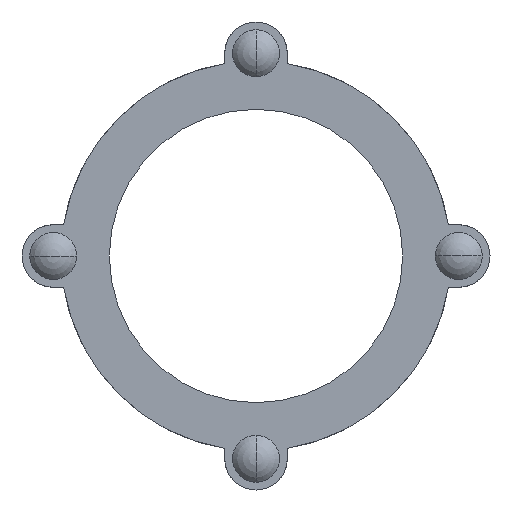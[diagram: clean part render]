
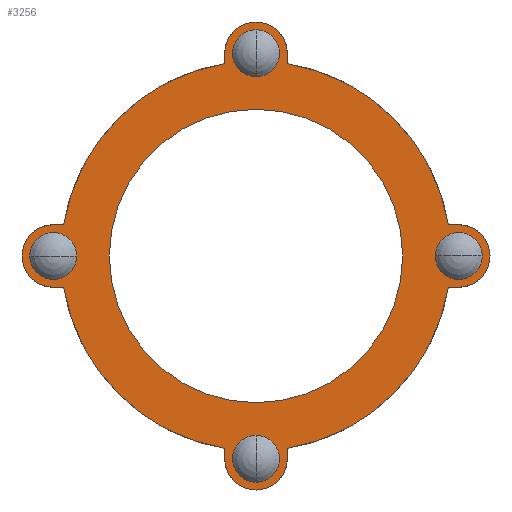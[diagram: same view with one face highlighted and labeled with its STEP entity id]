
A CAD part, left-side view. The second image highlights one B-rep face of the part: STEP entity #3256.
In plain terms, the highlighted planar face has unit normal (-1, 0, 0).
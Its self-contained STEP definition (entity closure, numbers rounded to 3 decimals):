
#2=CARTESIAN_POINT('',(-76.5,0.,-110.25));
#3=DIRECTION('',(1.,0.,0.));
#4=DIRECTION('',(0.,0.,-1.));
#5=AXIS2_PLACEMENT_3D('',#2,#3,#4);
#7=CARTESIAN_POINT('',(-76.5,0.,-110.25));
#8=DIRECTION('',(1.,0.,0.));
#9=DIRECTION('',(0.,0.,1.));
#10=AXIS2_PLACEMENT_3D('',#7,#8,#9);
#12=CARTESIAN_POINT('',(-76.5,0.,110.25));
#13=DIRECTION('',(1.,0.,0.));
#14=DIRECTION('',(0.,0.,1.));
#15=AXIS2_PLACEMENT_3D('',#12,#13,#14);
#17=CARTESIAN_POINT('',(-76.5,0.,110.25));
#18=DIRECTION('',(1.,0.,0.));
#19=DIRECTION('',(0.,0.,-1.));
#20=AXIS2_PLACEMENT_3D('',#17,#18,#19);
#22=CARTESIAN_POINT('',(-76.5,110.25,0.));
#23=DIRECTION('',(1.,0.,0.));
#24=DIRECTION('',(0.,1.,0.));
#25=AXIS2_PLACEMENT_3D('',#22,#23,#24);
#27=CARTESIAN_POINT('',(-76.5,110.25,0.));
#28=DIRECTION('',(1.,0.,0.));
#29=DIRECTION('',(0.,-1.,0.));
#30=AXIS2_PLACEMENT_3D('',#27,#28,#29);
#32=DIRECTION('',(0.,0.,1.));
#33=VECTOR('',#32,5.622);
#34=CARTESIAN_POINT('',(-76.5,-17.,-110.25));
#35=LINE('',#34,#33);
#36=CARTESIAN_POINT('',(-76.5,0.,-110.25));
#37=DIRECTION('',(-1.,0.,0.));
#38=DIRECTION('',(0.,1.,0.));
#39=AXIS2_PLACEMENT_3D('',#36,#37,#38);
#41=DIRECTION('',(0.,0.,-1.));
#42=VECTOR('',#41,5.622);
#43=CARTESIAN_POINT('',(-76.5,17.,-104.628));
#44=LINE('',#43,#42);
#45=DIRECTION('',(0.,-1.,0.));
#46=VECTOR('',#45,5.622);
#47=CARTESIAN_POINT('',(-76.5,110.25,-17.));
#48=LINE('',#47,#46);
#49=CARTESIAN_POINT('',(-76.5,110.25,0.));
#50=DIRECTION('',(-1.,0.,0.));
#51=DIRECTION('',(0.,0.,1.));
#52=AXIS2_PLACEMENT_3D('',#49,#50,#51);
#54=DIRECTION('',(0.,1.,0.));
#55=VECTOR('',#54,5.622);
#56=CARTESIAN_POINT('',(-76.5,104.628,17.));
#57=LINE('',#56,#55);
#58=DIRECTION('',(0.,0.,-1.));
#59=VECTOR('',#58,5.622);
#60=CARTESIAN_POINT('',(-76.5,17.,110.25));
#61=LINE('',#60,#59);
#62=CARTESIAN_POINT('',(-76.5,0.,110.25));
#63=DIRECTION('',(-1.,0.,0.));
#64=DIRECTION('',(0.,-1.,0.));
#65=AXIS2_PLACEMENT_3D('',#62,#63,#64);
#67=DIRECTION('',(0.,0.,1.));
#68=VECTOR('',#67,5.622);
#69=CARTESIAN_POINT('',(-76.5,-17.,104.628));
#70=LINE('',#69,#68);
#71=DIRECTION('',(0.,1.,0.));
#72=VECTOR('',#71,5.622);
#73=CARTESIAN_POINT('',(-76.5,-110.25,17.));
#74=LINE('',#73,#72);
#75=CARTESIAN_POINT('',(-76.5,-110.25,0.));
#76=DIRECTION('',(-1.,0.,0.));
#77=DIRECTION('',(0.,0.,-1.));
#78=AXIS2_PLACEMENT_3D('',#75,#76,#77);
#80=DIRECTION('',(0.,-1.,0.));
#81=VECTOR('',#80,5.622);
#82=CARTESIAN_POINT('',(-76.5,-104.628,-17.));
#83=LINE('',#82,#81);
#84=CARTESIAN_POINT('',(-76.5,-110.25,0.));
#85=DIRECTION('',(1.,0.,0.));
#86=DIRECTION('',(0.,-1.,0.));
#87=AXIS2_PLACEMENT_3D('',#84,#85,#86);
#89=CARTESIAN_POINT('',(-76.5,-110.25,0.));
#90=DIRECTION('',(1.,0.,0.));
#91=DIRECTION('',(0.,1.,0.));
#92=AXIS2_PLACEMENT_3D('',#89,#90,#91);
#191=CARTESIAN_POINT('',(-76.5,0.,0.));
#192=DIRECTION('',(-1.,0.,0.));
#193=DIRECTION('',(0.,-0.16,-0.987));
#194=AXIS2_PLACEMENT_3D('',#191,#192,#193);
#236=CARTESIAN_POINT('',(-76.5,0.,0.));
#237=DIRECTION('',(-1.,0.,0.));
#238=DIRECTION('',(0.,0.987,-0.16));
#239=AXIS2_PLACEMENT_3D('',#236,#237,#238);
#263=CARTESIAN_POINT('',(-76.5,0.,0.));
#264=DIRECTION('',(-1.,0.,0.));
#265=DIRECTION('',(0.,-0.987,0.16));
#266=AXIS2_PLACEMENT_3D('',#263,#264,#265);
#299=CARTESIAN_POINT('',(-76.5,0.,0.));
#300=DIRECTION('',(-1.,0.,0.));
#301=DIRECTION('',(0.,0.16,0.987));
#302=AXIS2_PLACEMENT_3D('',#299,#300,#301);
#2264=CARTESIAN_POINT('',(-76.5,0.,0.));
#2265=DIRECTION('',(-1.,0.,0.));
#2266=DIRECTION('',(0.,1.,0.));
#2267=AXIS2_PLACEMENT_3D('',#2264,#2265,#2266);
#2269=CARTESIAN_POINT('',(-76.5,0.,0.));
#2270=DIRECTION('',(1.,0.,0.));
#2271=DIRECTION('',(0.,1.,0.));
#2272=AXIS2_PLACEMENT_3D('',#2269,#2270,#2271);
#2532=CARTESIAN_POINT('',(-76.5,79.75,0.));
#2534=VERTEX_POINT('',#2532);
#2544=CARTESIAN_POINT('',(-76.5,-79.75,0.));
#2546=VERTEX_POINT('',#2544);
#2560=CARTESIAN_POINT('',(-76.5,110.25,17.));
#2561=CARTESIAN_POINT('',(-76.5,110.25,-17.));
#2562=VERTEX_POINT('',#2560);
#2563=VERTEX_POINT('',#2561);
#2565=CARTESIAN_POINT('',(-76.5,104.628,17.));
#2567=VERTEX_POINT('',#2565);
#2568=CARTESIAN_POINT('',(-76.5,104.628,-17.));
#2570=VERTEX_POINT('',#2568);
#2660=CARTESIAN_POINT('',(-76.5,123.,0.));
#2661=CARTESIAN_POINT('',(-76.5,97.5,0.));
#2662=VERTEX_POINT('',#2660);
#2663=VERTEX_POINT('',#2661);
#2724=CARTESIAN_POINT('',(-76.5,-17.,110.25));
#2725=CARTESIAN_POINT('',(-76.5,17.,110.25));
#2726=VERTEX_POINT('',#2724);
#2727=VERTEX_POINT('',#2725);
#2728=CARTESIAN_POINT('',(-76.5,17.,104.628));
#2729=VERTEX_POINT('',#2728);
#2730=CARTESIAN_POINT('',(-76.5,-17.,104.628));
#2731=VERTEX_POINT('',#2730);
#2764=CARTESIAN_POINT('',(-76.5,-110.25,-17.));
#2765=CARTESIAN_POINT('',(-76.5,-110.25,17.));
#2766=VERTEX_POINT('',#2764);
#2767=VERTEX_POINT('',#2765);
#2768=CARTESIAN_POINT('',(-76.5,-104.628,17.));
#2769=VERTEX_POINT('',#2768);
#2770=CARTESIAN_POINT('',(-76.5,-104.628,-17.));
#2771=VERTEX_POINT('',#2770);
#2804=CARTESIAN_POINT('',(-76.5,17.,-110.25));
#2805=CARTESIAN_POINT('',(-76.5,-17.,-110.25));
#2806=VERTEX_POINT('',#2804);
#2807=VERTEX_POINT('',#2805);
#2808=CARTESIAN_POINT('',(-76.5,-17.,-104.628));
#2809=VERTEX_POINT('',#2808);
#2810=CARTESIAN_POINT('',(-76.5,17.,-104.628));
#2811=VERTEX_POINT('',#2810);
#3124=CARTESIAN_POINT('',(-76.5,0.,123.));
#3125=VERTEX_POINT('',#3124);
#3126=CARTESIAN_POINT('',(-76.5,0.,97.5));
#3127=VERTEX_POINT('',#3126);
#3140=CARTESIAN_POINT('',(-76.5,-123.,0.));
#3141=VERTEX_POINT('',#3140);
#3142=CARTESIAN_POINT('',(-76.5,-97.5,0.));
#3143=VERTEX_POINT('',#3142);
#3156=CARTESIAN_POINT('',(-76.5,0.,-123.));
#3157=VERTEX_POINT('',#3156);
#3158=CARTESIAN_POINT('',(-76.5,0.,-97.5));
#3159=VERTEX_POINT('',#3158);
#3188=CARTESIAN_POINT('',(-76.5,0.,0.));
#3189=DIRECTION('',(1.,0.,0.));
#3190=DIRECTION('',(0.,-1.,0.));
#3191=AXIS2_PLACEMENT_3D('',#3188,#3189,#3190);
#3192=PLANE('',#3191);
#3194=ORIENTED_EDGE('',*,*,#3193,.F.);
#3196=ORIENTED_EDGE('',*,*,#3195,.F.);
#3198=ORIENTED_EDGE('',*,*,#3197,.F.);
#3200=ORIENTED_EDGE('',*,*,#3199,.F.);
#3202=ORIENTED_EDGE('',*,*,#3201,.F.);
#3204=ORIENTED_EDGE('',*,*,#3203,.F.);
#3206=ORIENTED_EDGE('',*,*,#3205,.F.);
#3208=ORIENTED_EDGE('',*,*,#3207,.F.);
#3210=ORIENTED_EDGE('',*,*,#3209,.F.);
#3212=ORIENTED_EDGE('',*,*,#3211,.F.);
#3214=ORIENTED_EDGE('',*,*,#3213,.F.);
#3216=ORIENTED_EDGE('',*,*,#3215,.F.);
#3218=ORIENTED_EDGE('',*,*,#3217,.F.);
#3220=ORIENTED_EDGE('',*,*,#3219,.F.);
#3222=ORIENTED_EDGE('',*,*,#3221,.F.);
#3224=ORIENTED_EDGE('',*,*,#3223,.F.);
#3225=EDGE_LOOP('',(#3194,#3196,#3198,#3200,#3202,#3204,#3206,#3208,#3210,#3212,
#3214,#3216,#3218,#3220,#3222,#3224));
#3226=FACE_OUTER_BOUND('',#3225,.F.);
#3228=ORIENTED_EDGE('',*,*,#3227,.F.);
#3230=ORIENTED_EDGE('',*,*,#3229,.F.);
#3231=EDGE_LOOP('',(#3228,#3230));
#3232=FACE_BOUND('',#3231,.F.);
#3234=ORIENTED_EDGE('',*,*,#3233,.F.);
#3236=ORIENTED_EDGE('',*,*,#3235,.F.);
#3237=EDGE_LOOP('',(#3234,#3236));
#3238=FACE_BOUND('',#3237,.F.);
#3240=ORIENTED_EDGE('',*,*,#3239,.F.);
#3242=ORIENTED_EDGE('',*,*,#3241,.F.);
#3243=EDGE_LOOP('',(#3240,#3242));
#3244=FACE_BOUND('',#3243,.F.);
#3246=ORIENTED_EDGE('',*,*,#3245,.F.);
#3248=ORIENTED_EDGE('',*,*,#3247,.T.);
#3249=EDGE_LOOP('',(#3246,#3248));
#3250=FACE_BOUND('',#3249,.F.);
#3251=ORIENTED_EDGE('',*,*,#3177,.F.);
#3253=ORIENTED_EDGE('',*,*,#3252,.F.);
#3254=EDGE_LOOP('',(#3251,#3253));
#3255=FACE_BOUND('',#3254,.F.);
#3256=ADVANCED_FACE('',(#3226,#3232,#3238,#3244,#3250,#3255),#3192,.F.);
#6=CIRCLE('',#5,12.75);
#11=CIRCLE('',#10,12.75);
#16=CIRCLE('',#15,12.75);
#21=CIRCLE('',#20,12.75);
#26=CIRCLE('',#25,12.75);
#31=CIRCLE('',#30,12.75);
#40=CIRCLE('',#39,17.);
#53=CIRCLE('',#52,17.);
#66=CIRCLE('',#65,17.);
#79=CIRCLE('',#78,17.);
#88=CIRCLE('',#87,12.75);
#93=CIRCLE('',#92,12.75);
#195=CIRCLE('',#194,106.);
#240=CIRCLE('',#239,106.);
#267=CIRCLE('',#266,106.);
#303=CIRCLE('',#302,106.);
#2268=CIRCLE('',#2267,79.75);
#2273=CIRCLE('',#2272,79.75);
#3177=EDGE_CURVE('',#3141,#3143,#88,.T.);
#3193=EDGE_CURVE('',#2809,#2771,#195,.T.);
#3195=EDGE_CURVE('',#2807,#2809,#35,.T.);
#3197=EDGE_CURVE('',#2806,#2807,#40,.T.);
#3199=EDGE_CURVE('',#2811,#2806,#44,.T.);
#3201=EDGE_CURVE('',#2570,#2811,#240,.T.);
#3203=EDGE_CURVE('',#2563,#2570,#48,.T.);
#3205=EDGE_CURVE('',#2562,#2563,#53,.T.);
#3207=EDGE_CURVE('',#2567,#2562,#57,.T.);
#3209=EDGE_CURVE('',#2729,#2567,#303,.T.);
#3211=EDGE_CURVE('',#2727,#2729,#61,.T.);
#3213=EDGE_CURVE('',#2726,#2727,#66,.T.);
#3215=EDGE_CURVE('',#2731,#2726,#70,.T.);
#3217=EDGE_CURVE('',#2769,#2731,#267,.T.);
#3219=EDGE_CURVE('',#2767,#2769,#74,.T.);
#3221=EDGE_CURVE('',#2766,#2767,#79,.T.);
#3223=EDGE_CURVE('',#2771,#2766,#83,.T.);
#3227=EDGE_CURVE('',#3125,#3127,#16,.T.);
#3229=EDGE_CURVE('',#3127,#3125,#21,.T.);
#3233=EDGE_CURVE('',#2662,#2663,#26,.T.);
#3235=EDGE_CURVE('',#2663,#2662,#31,.T.);
#3239=EDGE_CURVE('',#3157,#3159,#6,.T.);
#3241=EDGE_CURVE('',#3159,#3157,#11,.T.);
#3245=EDGE_CURVE('',#2534,#2546,#2273,.T.);
#3247=EDGE_CURVE('',#2534,#2546,#2268,.T.);
#3252=EDGE_CURVE('',#3143,#3141,#93,.T.);
